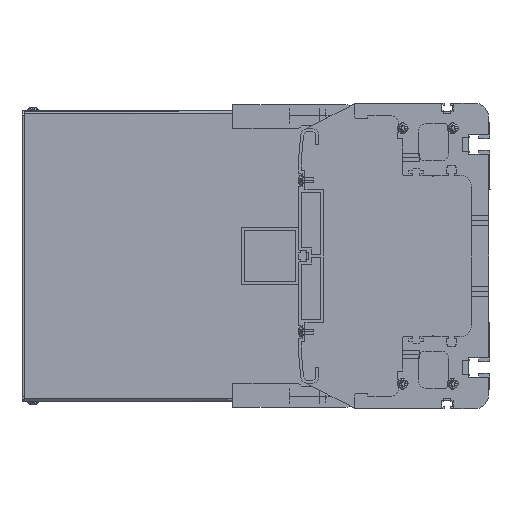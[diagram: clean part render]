
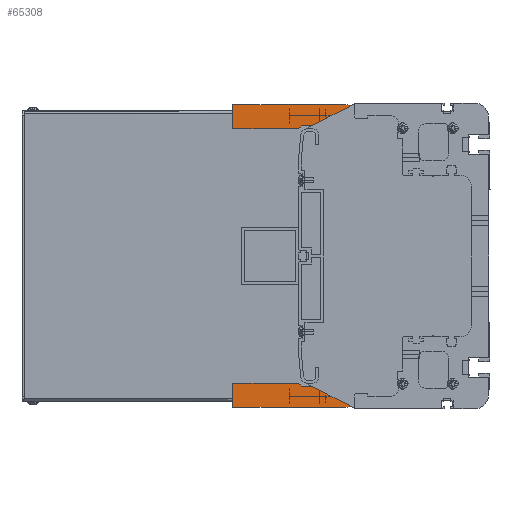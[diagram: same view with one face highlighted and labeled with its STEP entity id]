
A CAD part, left-side view. The second image highlights one B-rep face of the part: STEP entity #65308.
In plain terms, the highlighted planar face has unit normal (-1, 0, 0).
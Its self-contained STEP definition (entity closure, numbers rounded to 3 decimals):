
#60832=DIRECTION('',(0.,0.,1.));
#60833=VECTOR('',#60832,134.);
#60834=CARTESIAN_POINT('',(-434.5,111.,-67.));
#60835=LINE('',#60834,#60833);
#61097=DIRECTION('',(0.,1.,0.));
#61098=VECTOR('',#61097,46.);
#61099=CARTESIAN_POINT('',(-434.5,134.,-89.));
#61100=LINE('',#61099,#61098);
#61322=DIRECTION('',(0.,0.,1.));
#61323=VECTOR('',#61322,13.);
#61324=CARTESIAN_POINT('',(-434.5,114.5,-86.));
#61325=LINE('',#61324,#61323);
#61458=DIRECTION('',(0.,1.,0.));
#61459=VECTOR('',#61458,79.);
#61460=CARTESIAN_POINT('',(-434.5,101.,-106.));
#61461=LINE('',#61460,#61459);
#61462=DIRECTION('',(0.,-0.707,-0.707));
#61463=VECTOR('',#61462,2.828);
#61464=CARTESIAN_POINT('',(-434.5,134.,-89.));
#61465=LINE('',#61464,#61463);
#61466=CARTESIAN_POINT('',(-434.5,119.5,-86.));
#61467=DIRECTION('',(-1.,0.,0.));
#61468=DIRECTION('',(0.,0.,-1.));
#61469=AXIS2_PLACEMENT_3D('',#61466,#61467,#61468);
#61471=CARTESIAN_POINT('',(-434.5,119.5,86.));
#61472=DIRECTION('',(-1.,0.,0.));
#61473=DIRECTION('',(0.,-1.,0.));
#61474=AXIS2_PLACEMENT_3D('',#61471,#61472,#61473);
#61476=DIRECTION('',(0.,0.707,-0.707));
#61477=VECTOR('',#61476,2.828);
#61478=CARTESIAN_POINT('',(-434.5,132.,91.));
#61479=LINE('',#61478,#61477);
#61480=DIRECTION('',(0.,0.,-1.));
#61481=VECTOR('',#61480,17.);
#61482=CARTESIAN_POINT('',(-434.5,180.,106.));
#61483=LINE('',#61482,#61481);
#61484=DIRECTION('',(0.,-1.,0.));
#61485=VECTOR('',#61484,79.);
#61486=CARTESIAN_POINT('',(-434.5,180.,106.));
#61487=LINE('',#61486,#61485);
#61488=CARTESIAN_POINT('',(-434.5,101.,102.));
#61489=DIRECTION('',(1.,0.,0.));
#61490=DIRECTION('',(0.,0.,1.));
#61491=AXIS2_PLACEMENT_3D('',#61488,#61489,#61490);
#61493=CARTESIAN_POINT('',(-434.5,101.,-102.));
#61494=DIRECTION('',(1.,0.,0.));
#61495=DIRECTION('',(0.,-1.,0.));
#61496=AXIS2_PLACEMENT_3D('',#61493,#61494,#61495);
#61558=DIRECTION('',(0.,0.,1.));
#61559=VECTOR('',#61558,17.);
#61560=CARTESIAN_POINT('',(-434.5,180.,-106.));
#61561=LINE('',#61560,#61559);
#61754=DIRECTION('',(0.,0.,-1.));
#61755=VECTOR('',#61754,204.);
#61756=CARTESIAN_POINT('',(-434.5,97.,102.));
#61757=LINE('',#61756,#61755);
#62133=DIRECTION('',(0.,-1.,0.));
#62134=VECTOR('',#62133,46.);
#62135=CARTESIAN_POINT('',(-434.5,180.,89.));
#62136=LINE('',#62135,#62134);
#62184=DIRECTION('',(0.,1.,0.));
#62185=VECTOR('',#62184,12.5);
#62186=CARTESIAN_POINT('',(-434.5,119.5,91.));
#62187=LINE('',#62186,#62185);
#62254=DIRECTION('',(0.,0.,1.));
#62255=VECTOR('',#62254,13.);
#62256=CARTESIAN_POINT('',(-434.5,114.5,73.));
#62257=LINE('',#62256,#62255);
#62570=DIRECTION('',(0.,1.,0.));
#62571=VECTOR('',#62570,6.5);
#62572=CARTESIAN_POINT('',(-434.5,108.,73.));
#62573=LINE('',#62572,#62571);
#62578=DIRECTION('',(0.,0.,1.));
#62579=VECTOR('',#62578,6.);
#62580=CARTESIAN_POINT('',(-434.5,108.,67.));
#62581=LINE('',#62580,#62579);
#62586=DIRECTION('',(0.,-1.,0.));
#62587=VECTOR('',#62586,3.);
#62588=CARTESIAN_POINT('',(-434.5,111.,67.));
#62589=LINE('',#62588,#62587);
#63441=DIRECTION('',(0.,-1.,0.));
#63442=VECTOR('',#63441,12.5);
#63443=CARTESIAN_POINT('',(-434.5,132.,-91.));
#63444=LINE('',#63443,#63442);
#63445=DIRECTION('',(0.,-1.,0.));
#63446=VECTOR('',#63445,6.5);
#63447=CARTESIAN_POINT('',(-434.5,114.5,-73.));
#63448=LINE('',#63447,#63446);
#63457=DIRECTION('',(0.,0.,1.));
#63458=VECTOR('',#63457,6.);
#63459=CARTESIAN_POINT('',(-434.5,108.,-73.));
#63460=LINE('',#63459,#63458);
#63469=DIRECTION('',(0.,1.,0.));
#63470=VECTOR('',#63469,3.);
#63471=CARTESIAN_POINT('',(-434.5,108.,-67.));
#63472=LINE('',#63471,#63470);
#63757=CARTESIAN_POINT('',(-434.5,180.,106.));
#63759=VERTEX_POINT('',#63757);
#63763=CARTESIAN_POINT('',(-434.5,180.,89.));
#63764=VERTEX_POINT('',#63763);
#63778=CARTESIAN_POINT('',(-434.5,180.,-106.));
#63780=VERTEX_POINT('',#63778);
#63781=CARTESIAN_POINT('',(-434.5,180.,-89.));
#63782=VERTEX_POINT('',#63781);
#63797=CARTESIAN_POINT('',(-434.5,97.,102.));
#63798=CARTESIAN_POINT('',(-434.5,97.,-102.));
#63799=VERTEX_POINT('',#63797);
#63800=VERTEX_POINT('',#63798);
#63801=CARTESIAN_POINT('',(-434.5,101.,106.));
#63802=VERTEX_POINT('',#63801);
#63803=CARTESIAN_POINT('',(-434.5,132.,91.));
#63804=CARTESIAN_POINT('',(-434.5,134.,89.));
#63805=VERTEX_POINT('',#63803);
#63806=VERTEX_POINT('',#63804);
#63807=CARTESIAN_POINT('',(-434.5,119.5,91.));
#63808=VERTEX_POINT('',#63807);
#63809=CARTESIAN_POINT('',(-434.5,114.5,86.));
#63810=VERTEX_POINT('',#63809);
#63811=CARTESIAN_POINT('',(-434.5,114.5,73.));
#63812=VERTEX_POINT('',#63811);
#63813=CARTESIAN_POINT('',(-434.5,108.,73.));
#63814=VERTEX_POINT('',#63813);
#63815=CARTESIAN_POINT('',(-434.5,108.,67.));
#63816=VERTEX_POINT('',#63815);
#63817=CARTESIAN_POINT('',(-434.5,111.,67.));
#63818=VERTEX_POINT('',#63817);
#63819=CARTESIAN_POINT('',(-434.5,111.,-67.));
#63820=VERTEX_POINT('',#63819);
#63821=CARTESIAN_POINT('',(-434.5,108.,-67.));
#63822=VERTEX_POINT('',#63821);
#63823=CARTESIAN_POINT('',(-434.5,108.,-73.));
#63824=VERTEX_POINT('',#63823);
#63825=CARTESIAN_POINT('',(-434.5,114.5,-73.));
#63826=VERTEX_POINT('',#63825);
#63827=CARTESIAN_POINT('',(-434.5,114.5,-86.));
#63828=VERTEX_POINT('',#63827);
#63829=CARTESIAN_POINT('',(-434.5,119.5,-91.));
#63830=VERTEX_POINT('',#63829);
#63831=CARTESIAN_POINT('',(-434.5,132.,-91.));
#63832=VERTEX_POINT('',#63831);
#63833=CARTESIAN_POINT('',(-434.5,134.,-89.));
#63834=VERTEX_POINT('',#63833);
#63835=CARTESIAN_POINT('',(-434.5,101.,-106.));
#63836=VERTEX_POINT('',#63835);
#65257=CARTESIAN_POINT('',(-434.5,118.5,0.));
#65258=DIRECTION('',(1.,0.,0.));
#65259=DIRECTION('',(0.,0.,-1.));
#65260=AXIS2_PLACEMENT_3D('',#65257,#65258,#65259);
#65261=PLANE('',#65260);
#65263=ORIENTED_EDGE('',*,*,#65262,.T.);
#65265=ORIENTED_EDGE('',*,*,#65264,.T.);
#65266=ORIENTED_EDGE('',*,*,#64863,.F.);
#65268=ORIENTED_EDGE('',*,*,#65267,.T.);
#65270=ORIENTED_EDGE('',*,*,#65269,.T.);
#65271=ORIENTED_EDGE('',*,*,#65248,.T.);
#65272=ORIENTED_EDGE('',*,*,#65146,.T.);
#65274=ORIENTED_EDGE('',*,*,#65273,.T.);
#65276=ORIENTED_EDGE('',*,*,#65275,.T.);
#65278=ORIENTED_EDGE('',*,*,#65277,.T.);
#65279=ORIENTED_EDGE('',*,*,#64635,.T.);
#65281=ORIENTED_EDGE('',*,*,#65280,.T.);
#65283=ORIENTED_EDGE('',*,*,#65282,.T.);
#65285=ORIENTED_EDGE('',*,*,#65284,.T.);
#65287=ORIENTED_EDGE('',*,*,#65286,.T.);
#65289=ORIENTED_EDGE('',*,*,#65288,.T.);
#65291=ORIENTED_EDGE('',*,*,#65290,.T.);
#65293=ORIENTED_EDGE('',*,*,#65292,.T.);
#65295=ORIENTED_EDGE('',*,*,#65294,.F.);
#65297=ORIENTED_EDGE('',*,*,#65296,.F.);
#65299=ORIENTED_EDGE('',*,*,#65298,.T.);
#65301=ORIENTED_EDGE('',*,*,#65300,.T.);
#65303=ORIENTED_EDGE('',*,*,#65302,.T.);
#65305=ORIENTED_EDGE('',*,*,#65304,.T.);
#65306=EDGE_LOOP('',(#65263,#65265,#65266,#65268,#65270,#65271,#65272,#65274,
#65276,#65278,#65279,#65281,#65283,#65285,#65287,#65289,#65291,#65293,#65295,
#65297,#65299,#65301,#65303,#65305));
#65307=FACE_OUTER_BOUND('',#65306,.F.);
#65308=ADVANCED_FACE('',(#65307),#65261,.F.);
#61470=CIRCLE('',#61469,5.);
#61475=CIRCLE('',#61474,5.);
#61492=CIRCLE('',#61491,4.);
#61497=CIRCLE('',#61496,4.);
#64635=EDGE_CURVE('',#63820,#63818,#60835,.T.);
#64863=EDGE_CURVE('',#63834,#63782,#61100,.T.);
#65146=EDGE_CURVE('',#63828,#63826,#61325,.T.);
#65248=EDGE_CURVE('',#63830,#63828,#61470,.T.);
#65262=EDGE_CURVE('',#63836,#63780,#61461,.T.);
#65264=EDGE_CURVE('',#63780,#63782,#61561,.T.);
#65267=EDGE_CURVE('',#63834,#63832,#61465,.T.);
#65269=EDGE_CURVE('',#63832,#63830,#63444,.T.);
#65273=EDGE_CURVE('',#63826,#63824,#63448,.T.);
#65275=EDGE_CURVE('',#63824,#63822,#63460,.T.);
#65277=EDGE_CURVE('',#63822,#63820,#63472,.T.);
#65280=EDGE_CURVE('',#63818,#63816,#62589,.T.);
#65282=EDGE_CURVE('',#63816,#63814,#62581,.T.);
#65284=EDGE_CURVE('',#63814,#63812,#62573,.T.);
#65286=EDGE_CURVE('',#63812,#63810,#62257,.T.);
#65288=EDGE_CURVE('',#63810,#63808,#61475,.T.);
#65290=EDGE_CURVE('',#63808,#63805,#62187,.T.);
#65292=EDGE_CURVE('',#63805,#63806,#61479,.T.);
#65294=EDGE_CURVE('',#63764,#63806,#62136,.T.);
#65296=EDGE_CURVE('',#63759,#63764,#61483,.T.);
#65298=EDGE_CURVE('',#63759,#63802,#61487,.T.);
#65300=EDGE_CURVE('',#63802,#63799,#61492,.T.);
#65302=EDGE_CURVE('',#63799,#63800,#61757,.T.);
#65304=EDGE_CURVE('',#63800,#63836,#61497,.T.);
